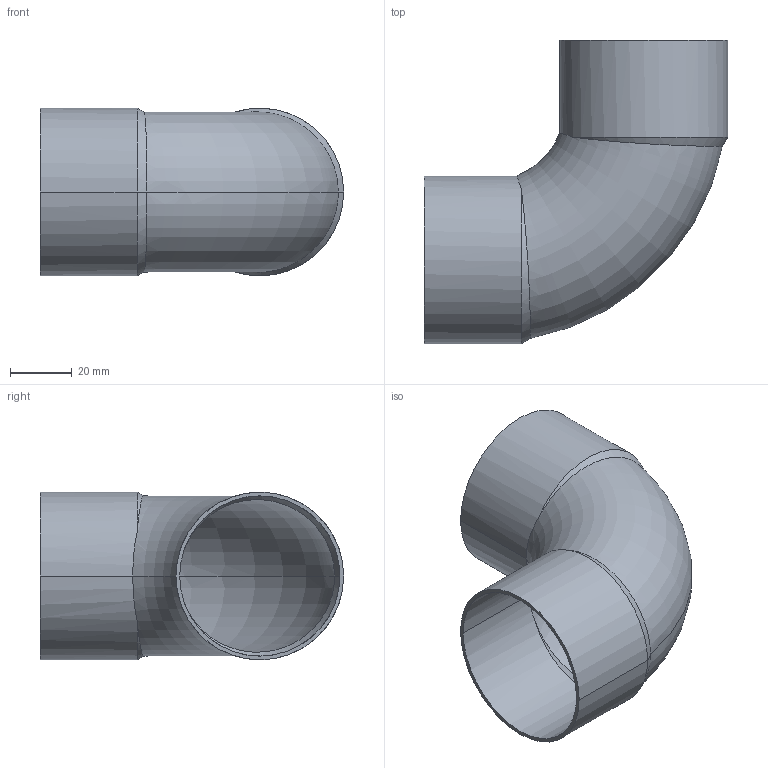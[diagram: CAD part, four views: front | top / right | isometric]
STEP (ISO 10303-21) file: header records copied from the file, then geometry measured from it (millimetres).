
FILE_DESCRIPTION((''),'2;1');
FILE_NAME('G:\SANHA-TERNAT\Technik\Deckel\UUU\Producttek\1509052\1509052(1).stp','2007-07-16T11:16:43',('vdvijverd'),(''),'Autodesk Inventor 8','Autodesk Inventor 8','');
FILE_SCHEMA(('AUTOMOTIVE_DESIGN { 1 0 10303 214 1 1 1 1 }'));
Length unit declared in the file: millimetre
Products named in the file (1): 1509052(1)
Bounding box: 98.4 x 98.4 x 54.4 mm (x, y, z)
Volume: 24394.6 mm3; surface area: 40277.3 mm2
Topology: 1 solids, 1 shells, 22 faces, 52 edges, 32 vertices
Faces by surface type: bspline 9, torus 4, cylinder 4, cone 4, plane 1
Entity records: 907 total; most frequent: CARTESIAN_POINT 430, ORIENTED_EDGE 104, DIRECTION 80, EDGE_CURVE 52, AXIS2_PLACEMENT_3D 34, VERTEX_POINT 32, EDGE_LOOP 24, FACE_OUTER_BOUND 22
